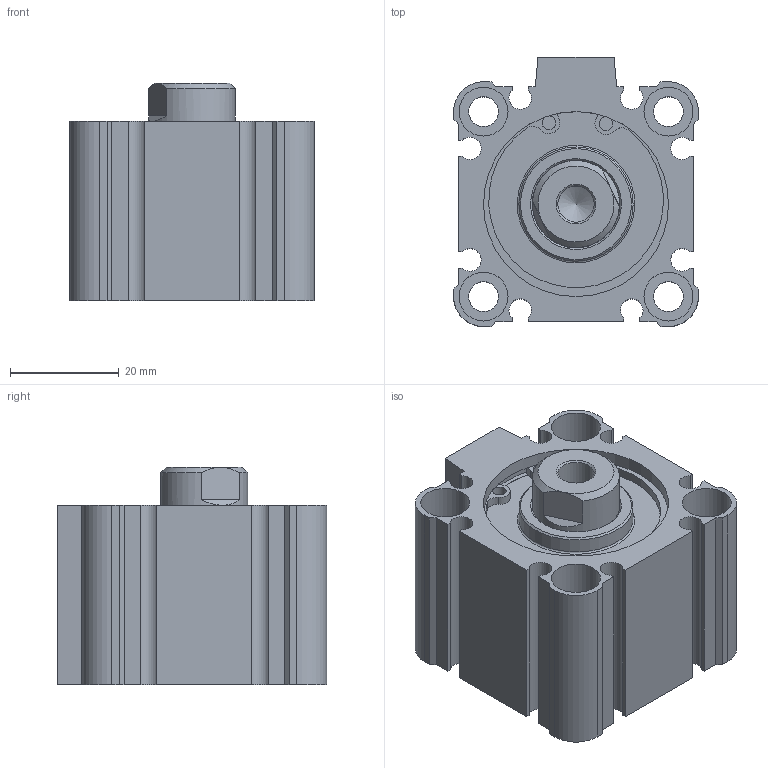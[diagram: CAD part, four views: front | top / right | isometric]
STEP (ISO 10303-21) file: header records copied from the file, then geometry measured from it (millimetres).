
FILE_DESCRIPTION(/* description */ ('Pneumatic Cylinder'),/* implementation_level */ '2;1');
FILE_NAME(/* name */ 'CYL-32-10.STEP',/* time_stamp */ '2026-02-10T14:18:21-05:00',/* author */ ('Design2'),/* organization */ (''),/* preprocessor_version */ 'ST-DEVELOPER v20',/* originating_system */ 'Autodesk Inventor 2025',/* authorisation */ '');
FILE_SCHEMA (('AUTOMOTIVE_DESIGN { 1 0 10303 214 3 1 1 }'));
Length unit declared in the file: inch
Products named in the file (4): CYL-32-10; M-CYL-32-10-B; M-CYL-32-10-S; M-CYL-32-C
Assembly tree (3 placements, depth 2):
  CYL-32-10
    M-CYL-32-10-B
    M-CYL-32-10-S
    M-CYL-32-C
Bounding box: 45 x 49.5 x 40 mm (x, y, z)
Volume: 45028 mm3; surface area: 25766.8 mm2
Topology: 4 solids, 4 shells, 142 faces, 338 edges, 225 vertices
Faces by surface type: plane 82, cylinder 51, cone 8, torus 1
Full cylindrical faces by diameter (mm): 2 x2, 2.5 x2, 5.5 x4, 6.655 x1, 9 x8, 9.7 x2, 16 x1, 16.1 x1, 16.25 x2, 21 x2, 32 x2, 33 x1, 34 x3, 35.7 x1
Entity records: 4390 total; most frequent: CARTESIAN_POINT 787, DIRECTION 744, ORIENTED_EDGE 674, EDGE_CURVE 337, AXIS2_PLACEMENT_3D 266, VERTEX_POINT 225, LINE 212, VECTOR 212
